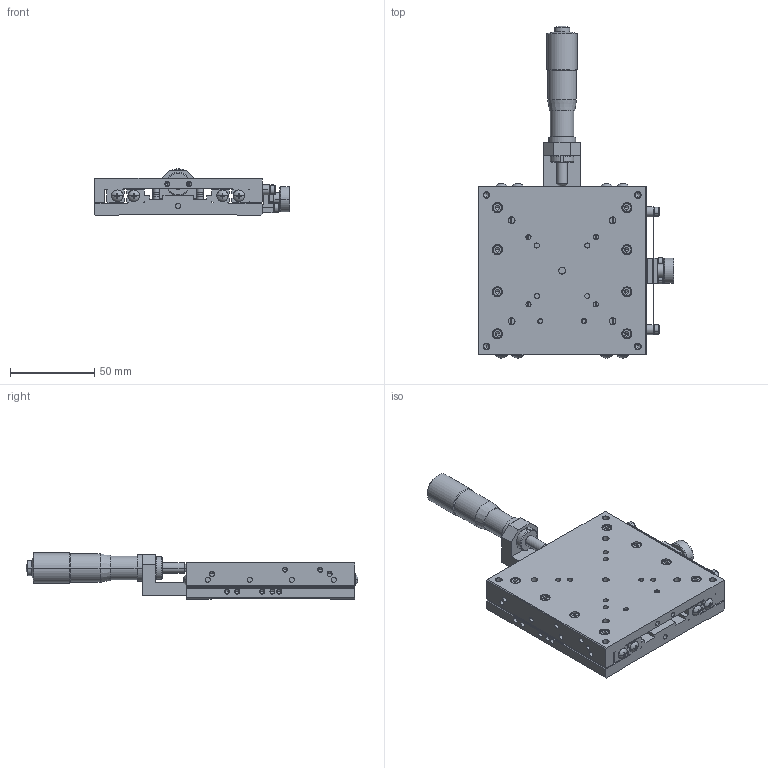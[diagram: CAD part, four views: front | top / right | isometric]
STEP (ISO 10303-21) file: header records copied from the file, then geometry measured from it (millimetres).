
FILE_DESCRIPTION (( 'STEP AP214' ), '1' );
FILE_NAME ('XM10A-C1-R.STEP', '2009-05-11T06:49:51', ( ' ' ), ( ' ' ), 'SwSTEP 2.0', 'SolidWorks 2008', '' );
FILE_SCHEMA (( 'AUTOMOTIVE_DESIGN' ));
Length unit declared in the file: millimetre
Products named in the file (5): 001130-1011(3D)-1; XM10A-C1-R; 001130-1022(3D)-1; 001130-1011(3D)-Part-2-1; 001130-1011(3D)-Part-1-1
Assembly tree (4 placements, depth 3):
  XM10A-C1-R
    001130-1022(3D)-1
    001130-1011(3D)-1
      001130-1011(3D)-Part-2-1
      001130-1011(3D)-Part-1-1
Bounding box: 116.5 x 197.37 x 27.5 mm (x, y, z)
Volume: 206352.9 mm3; surface area: 82023.8 mm2
Topology: 3 solids, 50 shells, 1704 faces, 3967 edges, 2369 vertices
Faces by surface type: plane 766, cylinder 539, cone 363, sphere 20, torus 16
Entity records: 48030 total; most frequent: DIRECTION 8967, CARTESIAN_POINT 8196, ORIENTED_EDGE 7726, EDGE_CURVE 3863, AXIS2_PLACEMENT_3D 3443, VERTEX_POINT 2369, VECTOR 2081, LINE 2081
